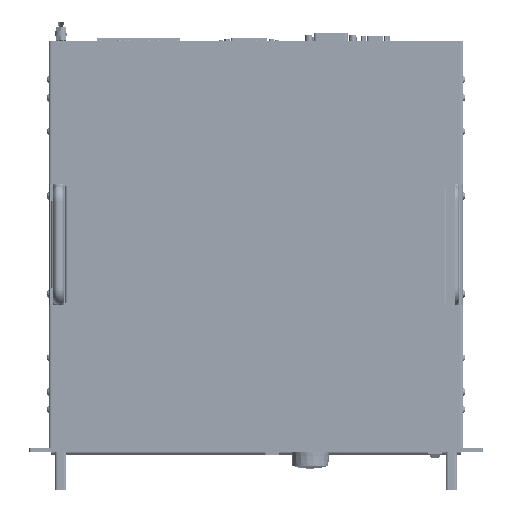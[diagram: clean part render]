
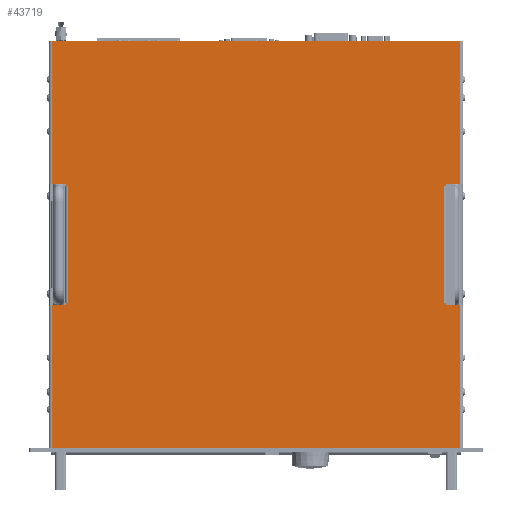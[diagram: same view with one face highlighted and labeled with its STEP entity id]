
A CAD part, top view. The second image highlights one B-rep face of the part: STEP entity #43719.
In plain terms, the highlighted planar face has unit normal (0, 0, 1).
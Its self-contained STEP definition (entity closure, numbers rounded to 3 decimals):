
#43719=ADVANCED_FACE('',(#94461),#94462,.F.);
#94461=FACE_OUTER_BOUND('',#182222,.T.);
#94462=PLANE('',#182223);
#182222=EDGE_LOOP('',(#307066,#307067,#307068,#307069,#307070,#307071,#307072,#307073,#307074,#307075,#307076,#307077,#307078,#307079,#307080,#307081,#307082,#307083,#307084,#307085));
#182223=AXIS2_PLACEMENT_3D('',#307086,#307087,#307088);
#307066=ORIENTED_EDGE('',*,*,#410086,.T.);
#307067=ORIENTED_EDGE('',*,*,#410106,.F.);
#307068=ORIENTED_EDGE('',*,*,#410107,.F.);
#307069=ORIENTED_EDGE('',*,*,#409750,.F.);
#307070=ORIENTED_EDGE('',*,*,#410072,.F.);
#307071=ORIENTED_EDGE('',*,*,#409735,.F.);
#307072=ORIENTED_EDGE('',*,*,#410061,.F.);
#307073=ORIENTED_EDGE('',*,*,#410108,.F.);
#307074=ORIENTED_EDGE('',*,*,#410104,.T.);
#307075=ORIENTED_EDGE('',*,*,#410099,.F.);
#307076=ORIENTED_EDGE('',*,*,#410096,.T.);
#307077=ORIENTED_EDGE('',*,*,#410109,.F.);
#307078=ORIENTED_EDGE('',*,*,#410037,.F.);
#307079=ORIENTED_EDGE('',*,*,#409725,.F.);
#307080=ORIENTED_EDGE('',*,*,#410026,.F.);
#307081=ORIENTED_EDGE('',*,*,#409745,.F.);
#307082=ORIENTED_EDGE('',*,*,#410110,.F.);
#307083=ORIENTED_EDGE('',*,*,#410111,.F.);
#307084=ORIENTED_EDGE('',*,*,#410083,.T.);
#307085=ORIENTED_EDGE('',*,*,#410091,.T.);
#307086=CARTESIAN_POINT('',(241.3,260.625,459.001));
#307087=DIRECTION('',(0.,0.,-1.0));
#307088=DIRECTION('',(1.0,0.,0.));
#409725=EDGE_CURVE('',#492165,#492167,#492168,.T.);
#409735=EDGE_CURVE('',#492183,#492185,#492186,.T.);
#409745=EDGE_CURVE('',#492201,#492203,#492204,.T.);
#409750=EDGE_CURVE('',#492210,#492212,#492213,.T.);
#410026=EDGE_CURVE('',#492203,#492165,#492643,.T.);
#410037=EDGE_CURVE('',#492167,#492658,#492659,.T.);
#410061=EDGE_CURVE('',#492691,#492183,#492693,.T.);
#410072=EDGE_CURVE('',#492185,#492210,#492708,.T.);
#410083=EDGE_CURVE('',#492719,#492722,#492724,.T.);
#410086=EDGE_CURVE('',#492729,#492726,#492730,.T.);
#410091=EDGE_CURVE('',#492722,#492729,#492735,.T.);
#410096=EDGE_CURVE('',#492741,#492739,#492742,.T.);
#410099=EDGE_CURVE('',#492741,#492745,#492746,.T.);
#410104=EDGE_CURVE('',#492751,#492745,#492753,.T.);
#410106=EDGE_CURVE('',#492755,#492726,#492756,.T.);
#410107=EDGE_CURVE('',#492212,#492755,#492757,.T.);
#410108=EDGE_CURVE('',#492751,#492691,#492758,.T.);
#410109=EDGE_CURVE('',#492658,#492739,#492759,.T.);
#410110=EDGE_CURVE('',#492760,#492201,#492761,.T.);
#410111=EDGE_CURVE('',#492719,#492760,#492762,.T.);
#492165=VERTEX_POINT('',#612215);
#492167=VERTEX_POINT('',#612217);
#492168=LINE('',#612218,#612219);
#492183=VERTEX_POINT('',#612237);
#492185=VERTEX_POINT('',#612239);
#492186=LINE('',#612240,#612241);
#492201=VERTEX_POINT('',#612259);
#492203=VERTEX_POINT('',#612261);
#492204=LINE('',#612262,#612263);
#492210=VERTEX_POINT('',#612270);
#492212=VERTEX_POINT('',#612272);
#492213=LINE('',#612273,#612274);
#492643=LINE('',#612825,#612826);
#492658=VERTEX_POINT('',#612846);
#492659=LINE('',#612847,#612848);
#492691=VERTEX_POINT('',#612894);
#492693=LINE('',#612897,#612898);
#492708=LINE('',#612918,#612919);
#492719=VERTEX_POINT('',#612934);
#492722=VERTEX_POINT('',#612938);
#492724=LINE('',#612940,#612941);
#492726=VERTEX_POINT('',#612943);
#492729=VERTEX_POINT('',#612947);
#492730=LINE('',#612948,#612949);
#492735=LINE('',#612954,#612955);
#492739=VERTEX_POINT('',#612960);
#492741=VERTEX_POINT('',#612963);
#492742=LINE('',#612964,#612965);
#492745=VERTEX_POINT('',#612968);
#492746=LINE('',#612969,#612970);
#492751=VERTEX_POINT('',#612975);
#492753=LINE('',#612978,#612979);
#492755=VERTEX_POINT('',#612981);
#492756=LINE('',#612982,#612983);
#492757=LINE('',#612984,#612985);
#492758=LINE('',#612986,#612987);
#492759=LINE('',#612988,#612989);
#492760=VERTEX_POINT('',#612990);
#492761=LINE('',#612991,#612992);
#492762=LINE('',#612993,#612994);
#612215=CARTESIAN_POINT('',(23.623,44.,459.001));
#612217=CARTESIAN_POINT('',(23.623,196.,459.001));
#612218=CARTESIAN_POINT('',(23.623,190.313,459.001));
#612219=VECTOR('',#702868,1.0);
#612237=CARTESIAN_POINT('',(23.623,325.25,459.001));
#612239=CARTESIAN_POINT('',(23.623,477.25,459.001));
#612240=CARTESIAN_POINT('',(23.623,330.938,459.001));
#612241=VECTOR('',#702884,1.0);
#612259=CARTESIAN_POINT('',(458.977,196.,459.001));
#612261=CARTESIAN_POINT('',(458.977,44.,459.001));
#612262=CARTESIAN_POINT('',(458.977,190.313,459.001));
#612263=VECTOR('',#702900,1.0);
#612270=CARTESIAN_POINT('',(458.977,477.25,459.001));
#612272=CARTESIAN_POINT('',(458.977,325.25,459.001));
#612273=CARTESIAN_POINT('',(458.977,330.938,459.001));
#612274=VECTOR('',#702908,1.0);
#612825=CARTESIAN_POINT('',(461.727,44.,459.001));
#612826=VECTOR('',#703294,1.0);
#612846=CARTESIAN_POINT('',(38.873,196.,459.001));
#612847=CARTESIAN_POINT('',(20.873,196.,459.001));
#612848=VECTOR('',#703312,1.0);
#612894=CARTESIAN_POINT('',(38.873,325.25,459.001));
#612897=CARTESIAN_POINT('',(38.873,325.25,459.001));
#612898=VECTOR('',#703340,1.0);
#612918=CARTESIAN_POINT('',(20.873,477.25,459.001));
#612919=VECTOR('',#703358,1.0);
#612934=CARTESIAN_POINT('',(443.727,198.,459.001));
#612938=CARTESIAN_POINT('',(441.977,198.,459.001));
#612940=CARTESIAN_POINT('',(342.593,198.,459.001));
#612941=VECTOR('',#703370,1.0);
#612943=CARTESIAN_POINT('',(443.727,323.25,459.001));
#612947=CARTESIAN_POINT('',(441.977,323.25,459.001));
#612948=CARTESIAN_POINT('',(342.593,323.25,459.001));
#612949=VECTOR('',#703372,1.0);
#612954=CARTESIAN_POINT('',(441.977,260.625,459.001));
#612955=VECTOR('',#703382,1.0);
#612960=CARTESIAN_POINT('',(38.873,198.,459.001));
#612963=CARTESIAN_POINT('',(40.623,198.,459.001));
#612964=CARTESIAN_POINT('',(140.007,198.,459.001));
#612965=VECTOR('',#703385,1.0);
#612968=CARTESIAN_POINT('',(40.623,323.25,459.001));
#612969=CARTESIAN_POINT('',(40.623,260.625,459.001));
#612970=VECTOR('',#703389,1.0);
#612975=CARTESIAN_POINT('',(38.873,323.25,459.001));
#612978=CARTESIAN_POINT('',(140.007,323.25,459.001));
#612979=VECTOR('',#703397,1.0);
#612981=CARTESIAN_POINT('',(443.727,325.25,459.001));
#612982=CARTESIAN_POINT('',(443.727,325.25,459.001));
#612983=VECTOR('',#703398,1.0);
#612984=CARTESIAN_POINT('',(461.727,325.25,459.001));
#612985=VECTOR('',#703399,1.0);
#612986=CARTESIAN_POINT('',(38.873,323.25,459.001));
#612987=VECTOR('',#703400,1.0);
#612988=CARTESIAN_POINT('',(38.873,196.,459.001));
#612989=VECTOR('',#703401,1.0);
#612990=CARTESIAN_POINT('',(443.727,196.,459.001));
#612991=CARTESIAN_POINT('',(443.727,196.,459.001));
#612992=VECTOR('',#703402,1.0);
#612993=CARTESIAN_POINT('',(443.727,198.,459.001));
#612994=VECTOR('',#703403,1.0);
#702868=DIRECTION('',(0.0,1.0,0.0));
#702884=DIRECTION('',(0.0,1.0,0.0));
#702900=DIRECTION('',(0.0,-1.0,0.0));
#702908=DIRECTION('',(0.0,-1.0,0.0));
#703294=DIRECTION('',(-1.0,0.0,0.0));
#703312=DIRECTION('',(1.0,0.0,0.0));
#703340=DIRECTION('',(-1.0,0.0,0.0));
#703358=DIRECTION('',(1.0,0.0,0.0));
#703370=DIRECTION('',(-1.0,0.0,0.0));
#703372=DIRECTION('',(1.0,0.0,0.0));
#703382=DIRECTION('',(0.0,1.0,0.0));
#703385=DIRECTION('',(-1.0,0.0,0.0));
#703389=DIRECTION('',(0.0,1.0,0.0));
#703397=DIRECTION('',(1.0,0.0,0.0));
#703398=DIRECTION('',(0.0,-1.0,0.0));
#703399=DIRECTION('',(-1.0,0.0,0.0));
#703400=DIRECTION('',(0.0,1.0,0.0));
#703401=DIRECTION('',(0.0,1.0,0.0));
#703402=DIRECTION('',(1.0,0.0,0.0));
#703403=DIRECTION('',(0.0,-1.0,0.0));
